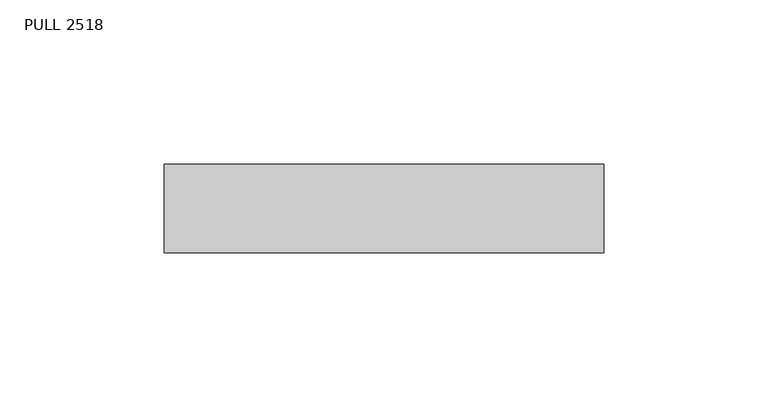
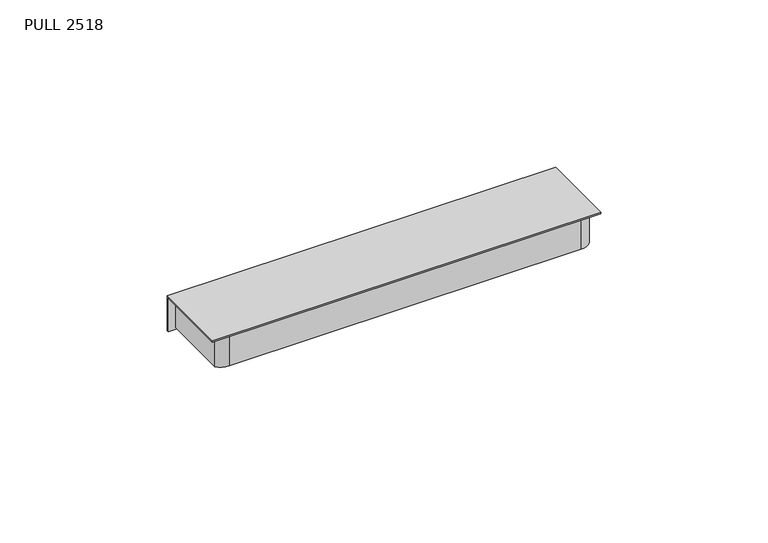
"""IFC4 building model written with IfcOpenShell, lengths in millimetres: proxy geometry, PULL 2518."""

from ifc_helpers import new_model, si_unit, frame, origin, place, context, project, spatial, circle_curve, source, transform, mapped, element, save
from ifc_brep_helpers import plane_surface, cylinder_surface, advanced_brep


def pull_2518_0e440d19(model_context):
    return source(origin(), model_context, "Body", "AdvancedBrep", [
        advanced_brep(
        [(47.592487, -59.6005192, 12.7), (181.592487, -59.6005192, 12.7), (181.592487, -59.6005192, 0.0), (47.592487, -59.6005192, 0.0), (47.592487, -86.6005192, 12.7), (181.592487, -86.6005192, 12.7), (47.592487, -86.6005192, 12.192), (181.592487, -86.6005192, 12.192), (181.592487, -60.1085192, 0.0), (47.592487, -60.1085192, 0.0), (53.942487, -85.6005192, 12.192), (49.973737, -83.8382098, 12.192), (49.973737, -83.8382098, 0.7), (53.942487, -85.6005192, 0.7), (175.242487, -85.6005192, 12.192), (175.242487, -85.6005192, 0.7), (179.211237, -83.8382098, 12.192), (179.211237, -83.8382098, 0.7), (181.592487, -60.1085192, 12.192), (179.211237, -60.1085192, 12.192), (179.211237, -60.1085192, 0.7), (49.973737, -60.1085192, 0.7), (49.973737, -60.1085192, 12.192), (47.592487, -60.1085192, 12.192)],
        [
            (0, 1),
            (1, 2),
            (2, 3),
            (3, 0),
            (0, 4),
            (4, 5),
            (5, 1),
            (4, 6),
            (6, 7),
            (7, 5),
            (2, 8),
            (8, 9),
            (9, 3),
            (10, 11, circle_curve(frame((53.942487, -80.2505192, 12.192), z_axis=(0.0, 0.0, -1.0), x_axis=(-5.897046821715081e-12, 1.0, 0.0)), 5.35)),
            (11, 12),
            (12, 13, circle_curve(frame((53.942487, -80.2505192, 0.7), z_axis=(0.0, 0.0, 1.0), x_axis=(-5.897046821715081e-12, 1.0, 0.0)), 5.35)),
            (13, 10),
            (14, 10),
            (13, 15),
            (15, 14),
            (16, 14, circle_curve(frame((175.242487, -80.2505192, 12.192), z_axis=(0.0, 0.0, -1.0), x_axis=(-0.741822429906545, 0.6705963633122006, 0.0)), 5.35)),
            (15, 17, circle_curve(frame((175.242487, -80.2505192, 0.7), z_axis=(0.0, 0.0, 1.0), x_axis=(-0.741822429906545, 0.6705963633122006, 0.0)), 5.35)),
            (17, 16),
            (8, 18),
            (18, 19),
            (19, 20),
            (20, 21),
            (21, 22),
            (22, 23),
            (23, 9),
            (12, 21),
            (20, 17),
            (19, 16),
            (6, 23),
            (22, 11),
            (18, 7),
        ],
        [
            plane_surface(frame((181.592487, -59.6005192, 0.0), z_axis=(0.0, 1.0, 0.0), x_axis=(-1.0, 0.0, 0.0))),
            plane_surface(frame((114.592487, -79.0969577, 12.7), z_axis=(0.0, 0.0, 1.0), x_axis=(1.0, 0.0, 0.0))),
            plane_surface(frame((47.592487, -86.6005192, 0.0), z_axis=(0.0, -1.0, 0.0), x_axis=(1.0, 0.0, 0.0))),
            plane_surface(frame((114.592487, -79.0969577, 0.0), z_axis=(0.0, 0.0, -1.0), x_axis=(1.0, 0.0, 0.0))),
            cylinder_surface(frame((53.942487, -80.2505192, 0.7), z_axis=(0.0, 0.0, 1.0), x_axis=(-5.897046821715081e-12, 1.0, 0.0)), 5.35),
            plane_surface(frame((175.242487, -85.6005192, 0.7), z_axis=(0.0, -1.0, 0.0), x_axis=(-1.0, 0.0, 0.0))),
            cylinder_surface(frame((175.242487, -80.2505192, 0.7), z_axis=(0.0, 0.0, 0.9999999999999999), x_axis=(-0.741822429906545, 0.6705963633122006, 0.0)), 5.35),
            plane_surface(frame((180.401862, -60.1085192, 6.096), z_axis=(0.0, -1.0, 0.0), x_axis=(0.0, 0.0, -1.0))),
            plane_surface(frame((114.592487, -73.3545192, 0.7), z_axis=(0.0, 0.0, -1.0), x_axis=(1.0, 0.0, 0.0))),
            plane_surface(frame((179.211237, -59.6005192, 0.0), z_axis=(1.0, 0.0, 0.0), x_axis=(0.0, -1.0, 0.0))),
            plane_surface(frame((48.783112, -72.4040028, 12.192), z_axis=(0.0, 0.0, -1.0), x_axis=(-1.0, 0.0, 0.0))),
            plane_surface(frame((49.973737, -85.2074864, 0.0), z_axis=(-1.0, 1.4501810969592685e-12, 0.0), x_axis=(1.4501810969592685e-12, 1.0, 0.0))),
            plane_surface(frame((47.592487, -59.6005192, 0.0), z_axis=(-1.0, 1.449704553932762e-12, 0.0), x_axis=(-1.449704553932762e-12, -1.0, 0.0))),
            plane_surface(frame((181.592487, -86.6005192, 0.0), z_axis=(1.0, 0.0, 0.0), x_axis=(0.0, 1.0, 0.0))),
        ],
        [
            (0, [[1, 2, 3, 4]]),
            (1, [[-1, 5, 6, 7]]),
            (2, [[-6, 8, 9, 10]]),
            (3, [[-3, 11, 12, 13]]),
            (4, [[14, 15, 16, 17]]),
            (5, [[18, -17, 19, 20]]),
            (6, [[21, -20, 22, 23]]),
            (7, [[-12, 24, 25, 26, 27, 28, 29, 30]]),
            (8, [[-16, 31, -27, 32, -22, -19]]),
            (9, [[-23, -32, -26, 33]]),
            (10, [[-9, 34, -29, 35, -14, -18, -21, -33, -25, 36]]),
            (11, [[-15, -35, -28, -31]]),
            (12, [[-5, -4, -13, -30, -34, -8]]),
            (13, [[-10, -36, -24, -11, -2, -7]]),
        ],
    ),
    ])


if __name__ == "__main__":
    model = new_model("IFC4")
    model_context = context("Model", 3, world=origin())
    ifc_project = project(units=[si_unit("LENGTHUNIT", "METRE", prefix="MILLI")], contexts=[model_context])
    site = spatial("IfcSite", under=ifc_project)
    building = spatial("IfcBuilding", under=site)
    placement = place(None, origin())
    pull_2518_shape = pull_2518_0e440d19(model_context)
    element("IfcBuildingElementProxy", 1, Name="PULL 2518", ObjectType="PULL 2518", at=placement, inside=building, context=model_context, shape_type="MappedRepresentation", body=[
        mapped(pull_2518_shape, transform((0.0, 0.0, 0.0), x_axis=(1.0, 0.0, 0.0), y_axis=(0.0, 1.0, 0.0), z_axis=(0.0, 0.0, 1.0))),
    ])
    save(model, "model.ifc")
